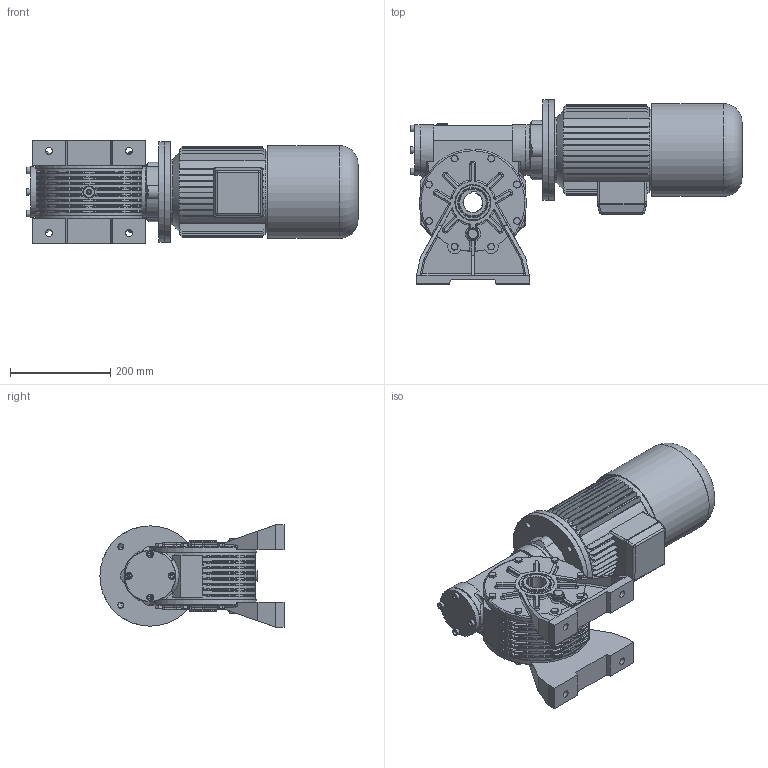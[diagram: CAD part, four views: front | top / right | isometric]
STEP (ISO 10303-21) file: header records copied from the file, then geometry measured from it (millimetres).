
FILE_DESCRIPTION((''),'2;1');
FILE_NAME('Y:\Archivi Inventor\Prog_01\GRAND_50\complessivi\Figurini\MRV50 sito\90l_autofrenante\mrv50_P2_90L_B5.stp','2013-02-06T15:34:39',('tech3'),(''),'Autodesk Inventor 2013','Autodesk Inventor 2013','');
FILE_SCHEMA(('AUTOMOTIVE_DESIGN { 1 0 10303 214 1 1 1 1 }'));
Length unit declared in the file: millimetre
Products named in the file (18): mrv50_80_90l_90s_b5; mrv50_fig; Figurino_carcassa_MRV50; 0105028; 0105029; figurino_corona_MRV50; figurino_0105010; Guarnizione 3_8 GAS; Tappo 3_8 GAS_esagn_incsst; Tappo3_8 GAS; figurino_0105009; ISO 4017 M8 x 20; 55_70_8; UNI 6592 8.4 x 14; UNI 5931  M 8 x  25; 0105006; ISO 4762 M8 x 20; motori B5 brake 90L
Assembly tree (50 placements, depth 3):
  mrv50_80_90l_90s_b5
    mrv50_fig
      Figurino_carcassa_MRV50
      0105028  x2
      0105029  x2
      figurino_corona_MRV50
      figurino_0105010  x2
      Guarnizione 3_8 GAS  x4
      Tappo 3_8 GAS_esagn_incsst  x2
      Tappo3_8 GAS  x2
      figurino_0105009
      ISO 4017 M8 x 20  x16
      55_70_8  x2
      UNI 6592 8.4 x 14  x4
      UNI 5931  M 8 x  25  x4
    0105006
    ISO 4762 M8 x 20  x4
    motori B5 brake 90L
Bounding box: 661.8 x 367 x 203.7 mm (x, y, z)
Volume: 11514132 mm3; surface area: 1436758.2 mm2
Topology: 62 solids, 64 shells, 2233 faces, 5300 edges, 3114 vertices
Faces by surface type: plane 935, cylinder 676, cone 215, torus 175, bspline 162, sphere 70
Full cylindrical faces by diameter (mm): 2 x2, 5 x1, 6.647 x24, 8 x26, 8.4 x4, 8.5 x48, 11.5 x4, 11.63 x16, 12 x4, 13 x12, 13.046 x2, 14 x8, 14.95 x4, 16.3 x4, 16.5 x2, 22 x8, 24 x3, 55 x1, 60 x1, 66.4 x2, 69 x2, 70 x5, 72 x4, 73 x2, 75 x1, 99.5 x2, 100 x1, 101 x1, 102 x2, 124 x1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
Entity records: 52796 total; most frequent: CARTESIAN_POINT 17102, DIRECTION 7463, ORIENTED_EDGE 6814, EDGE_CURVE 3407, AXIS2_PLACEMENT_3D 2949, VERTEX_POINT 2166, EDGE_LOOP 1911, VECTOR 1565
